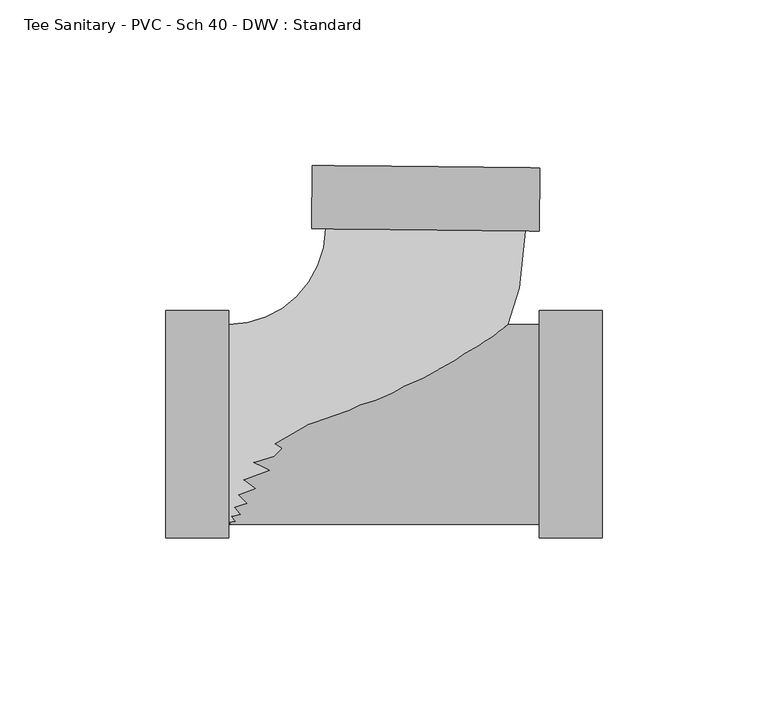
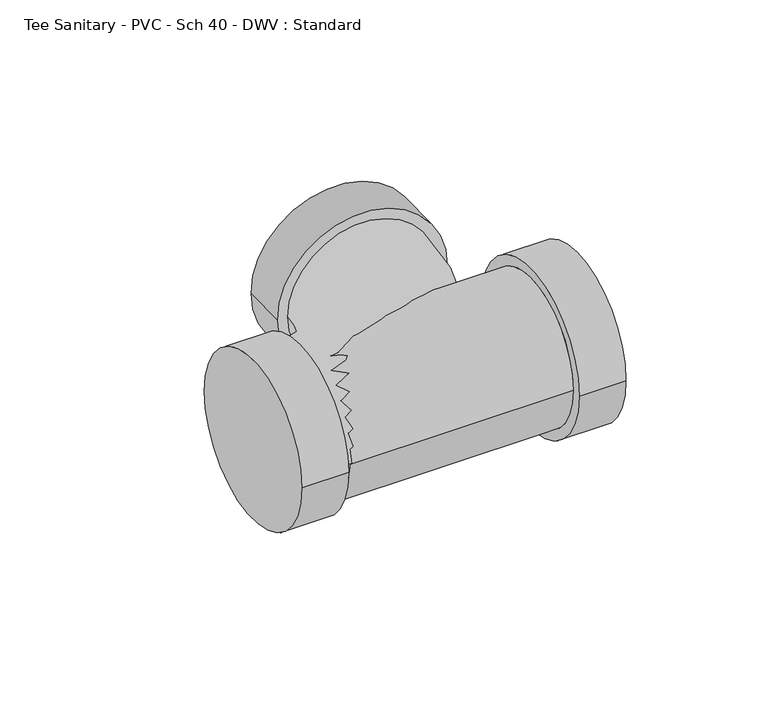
"""IFC4 building model written with IfcOpenShell, lengths in millimetres: pipe fitting geometry, Tee Sanitary - PVC - Sch 40 - DWV : Standard."""

from ifc_helpers import new_model, si_unit, point, frame, origin, place, context, project, spatial, circle_curve, ellipse_curve, trimmed, source, transform, mapped, element, save
from ifc_brep_helpers import plane_surface, cylinder_surface, revolved_surface, advanced_brep


def tee_sanitary_pvc_sch_40_dwv_standard_63ee02c0(model_context):
    return source(origin(), model_context, "Body", "AdvancedBrep", [
        advanced_brep(
        [(-58.7502, 30.1625, 0.0), (-58.7502, -30.1625, 0.0), (30.7728118, 58.4328372, 0.0), (-29.5489157, 59.0611885, 0.0), (35.1239132, 77.4385467, 0.0), (-33.5031636, 78.1534121, 0.0), (34.9254865, 58.3895802, 0.0), (-33.7015904, 59.1044455, 0.0)],
        [
            (0, 1, circle_curve(frame((-58.7502, 0.0, 0.0), z_axis=(-1.0, 0.0, 0.0), x_axis=(0.0, -1.0, 0.0)), 30.1625)),
            (1, 0, circle_curve(frame((-58.7502, 0.0, 0.0), z_axis=(-1.0, 0.0, 0.0), x_axis=(0.0, -1.0, 0.0)), 30.1625)),
            (1, 2, circle_curve(frame((-58.7502, 59.3653686, 0.0), z_axis=(0.0, 0.0, 1.0), x_axis=(0.0, -1.0, 0.0)), 89.5278686)),
            (2, 3, circle_curve(frame((0.6119481, 58.7470129, 0.0), z_axis=(-0.01041610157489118, -0.9999457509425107, 0.0), x_axis=(0.9999457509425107, -0.01041610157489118, 0.0)), 30.1625)),
            (3, 0, circle_curve(frame((-58.7502, 59.3653686, 0.0), z_axis=(0.0, 0.0, -1.0), x_axis=(0.0, -1.0, 0.0)), 29.2028686)),
            (3, 2, circle_curve(frame((0.6119481, 58.7470129, 0.0), z_axis=(-0.01041610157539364, -0.9999457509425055, 0.0), x_axis=(0.9999457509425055, -0.01041610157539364, 0.0)), 30.1625)),
            (4, 5, circle_curve(frame((0.8103748, 77.7959794, 0.0), z_axis=(0.010416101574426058, 0.9999457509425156, 0.0), x_axis=(-0.9999457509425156, 0.010416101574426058, 0.0)), 34.3154)),
            (5, 4, circle_curve(frame((0.8103748, 77.7959794, 0.0), z_axis=(0.010416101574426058, 0.9999457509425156, 0.0), x_axis=(-0.9999457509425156, 0.010416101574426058, 0.0)), 34.3154)),
            (6, 7, circle_curve(frame((0.6119481, 58.7470129, 0.0), z_axis=(-0.010416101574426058, -0.9999457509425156, 0.0), x_axis=(-0.9999457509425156, 0.010416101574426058, 0.0)), 34.3154)),
            (7, 6, circle_curve(frame((0.6119481, 58.7470129, 0.0), z_axis=(-0.010416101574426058, -0.9999457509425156, 0.0), x_axis=(-0.9999457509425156, 0.010416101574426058, 0.0)), 34.3154)),
            (5, 7),
            (6, 4),
        ],
        [
            plane_surface(frame((-58.7502, 0.0, 0.0), z_axis=(-1.0, 0.0, 0.0), x_axis=(0.0, 0.0, 1.0))),
            revolved_surface(trimmed(ellipse_curve(frame((-58.7502, 0.0, 0.0), z_axis=(1.0, 0.0, 0.0), x_axis=(0.0, -1.0, 0.0)), 30.1625, 30.1625), [point((-58.7502, 30.1625, 0.0))], [point((-58.7502, -30.1625, 0.0))], True, "CARTESIAN"), (-58.7502, 59.3653686, 0.0), (0.0, 0.0, -1.0)),
            revolved_surface(trimmed(ellipse_curve(frame((-58.7502, 0.0, 0.0), z_axis=(1.0, 0.0, 0.0), x_axis=(0.0, -1.0, 0.0)), 30.1625, 30.1625), [point((-58.7502, -30.1625, 0.0))], [point((-58.7502, 30.1625, 0.0))], True, "CARTESIAN"), (-58.7502, 59.3653686, 0.0), (0.0, 0.0, -1.0)),
            plane_surface(frame((0.8103748, 77.7959794, 0.0), z_axis=(0.010416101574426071, 0.9999457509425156, 0.0), x_axis=(0.0, 0.0, 1.0))),
            plane_surface(frame((0.6119481, 58.7470129, 0.0), z_axis=(-0.010416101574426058, -0.9999457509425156, 0.0), x_axis=(0.0, 0.0, 1.0))),
            cylinder_surface(frame((0.8103748, 77.7959794, 0.0), z_axis=(0.010416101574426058, 0.9999457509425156, 0.0), x_axis=(-0.9999457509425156, 0.010416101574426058, 0.0)), 34.3154),
        ],
        [
            (0, [[1, 2]]),
            (1, [[3, 4, 5, -2]]),
            (2, [[-5, 6, -3, -1]]),
            (3, [[7, 8]]),
            (4, [[9, 10], [-6, -4]]),
            (5, [[11, -9, 12, -8]]),
            (5, [[-12, -10, -11, -7]]),
        ],
    ),
        advanced_brep(
        [(-58.7502, 30.1625, 0.0), (-58.7502, -30.1625, 0.0), (34.9254865, -30.1625, 0.0), (34.9254865, 30.1625, 0.0), (34.9254865, 34.3154, 0.0), (34.9254865, -34.3154, 0.0), (53.9754865, 34.3154, 0.0), (53.9754865, -34.3154, 0.0), (-77.8002, 34.3154, 0.0), (-77.8002, -34.3154, 0.0), (-58.7502, 34.3154, 0.0), (-58.7502, -34.3154, 0.0)],
        [
            (0, 1, circle_curve(frame((-58.7502, 0.0, 0.0), z_axis=(1.0, 0.0, 0.0), x_axis=(0.0, -1.0, 0.0)), 30.1625)),
            (1, 2),
            (2, 3, circle_curve(frame((34.9254865, 0.0, 0.0), z_axis=(-1.0, 0.0, 0.0), x_axis=(0.0, -1.0, 0.0)), 30.1625)),
            (3, 0),
            (3, 2, circle_curve(frame((34.9254865, 0.0, 0.0), z_axis=(-1.0, 0.0, 0.0), x_axis=(0.0, -1.0, 0.0)), 30.1625)),
            (1, 0, circle_curve(frame((-58.7502, 0.0, 0.0), z_axis=(1.0, 0.0, 0.0), x_axis=(0.0, -1.0, 0.0)), 30.1625)),
            (4, 5, circle_curve(frame((34.9254865, 0.0, 0.0), z_axis=(-1.0, 0.0, 0.0), x_axis=(0.0, -1.0, 0.0)), 34.3154)),
            (5, 4, circle_curve(frame((34.9254865, 0.0, 0.0), z_axis=(-1.0, 0.0, 0.0), x_axis=(0.0, -1.0, 0.0)), 34.3154)),
            (6, 7, circle_curve(frame((53.9754865, 0.0, 0.0), z_axis=(1.0, 0.0, 0.0), x_axis=(0.0, -1.0, 0.0)), 34.3154)),
            (7, 6, circle_curve(frame((53.9754865, 0.0, 0.0), z_axis=(1.0, 0.0, 0.0), x_axis=(0.0, -1.0, 0.0)), 34.3154)),
            (5, 7),
            (6, 4),
            (8, 9, circle_curve(frame((-77.8002, 0.0, 0.0), z_axis=(-1.0, 0.0, 0.0), x_axis=(0.0, -1.0, 0.0)), 34.3154)),
            (9, 8, circle_curve(frame((-77.8002, 0.0, 0.0), z_axis=(-1.0, 0.0, 0.0), x_axis=(0.0, -1.0, 0.0)), 34.3154)),
            (10, 11, circle_curve(frame((-58.7502, 0.0, 0.0), z_axis=(1.0, 0.0, 0.0), x_axis=(0.0, -1.0, 0.0)), 34.3154)),
            (11, 10, circle_curve(frame((-58.7502, 0.0, 0.0), z_axis=(1.0, 0.0, 0.0), x_axis=(0.0, -1.0, 0.0)), 34.3154)),
            (9, 11),
            (10, 8),
        ],
        [
            cylinder_surface(frame((-58.7502, 0.0, 0.0), z_axis=(-1.0, 0.0, 0.0), x_axis=(0.0, -1.0, 0.0)), 30.1625),
            plane_surface(frame((34.9254865, 0.0, 0.0), z_axis=(-1.0, 0.0, 0.0), x_axis=(0.0, 0.0, 1.0))),
            plane_surface(frame((53.9754865, 0.0, 0.0), z_axis=(1.0, 0.0, 0.0), x_axis=(0.0, 0.0, 1.0))),
            cylinder_surface(frame((34.9254865, 0.0, 0.0), z_axis=(-1.0, 0.0, 0.0), x_axis=(0.0, -1.0, 0.0)), 34.3154),
            plane_surface(frame((-77.8002, 0.0, 0.0), z_axis=(-1.0, 0.0, 0.0), x_axis=(0.0, 0.0, 1.0))),
            plane_surface(frame((-58.7502, 0.0, 0.0), z_axis=(1.0, 0.0, 0.0), x_axis=(0.0, 0.0, 1.0))),
            cylinder_surface(frame((-77.8002, 0.0, 0.0), z_axis=(-1.0, 0.0, 0.0), x_axis=(0.0, -1.0, 0.0)), 34.3154),
        ],
        [
            (0, [[1, 2, 3, 4]]),
            (0, [[5, -2, 6, -4]]),
            (1, [[7, 8], [-5, -3]]),
            (2, [[9, 10]]),
            (3, [[11, -9, 12, -8]]),
            (3, [[-12, -10, -11, -7]]),
            (4, [[13, 14]]),
            (5, [[15, 16], [-6, -1]]),
            (6, [[17, -15, 18, -14]]),
            (6, [[-18, -16, -17, -13]]),
        ],
    ),
    ])


if __name__ == "__main__":
    model = new_model("IFC4")
    model_context = context("Model", 3, world=origin())
    ifc_project = project(units=[si_unit("LENGTHUNIT", "METRE", prefix="MILLI")], contexts=[model_context])
    site = spatial("IfcSite", under=ifc_project)
    building = spatial("IfcBuilding", under=site)
    placement = place(None, origin())
    tee_sanitary_pvc_sch_40_dwv_standard_shape = tee_sanitary_pvc_sch_40_dwv_standard_63ee02c0(model_context)
    element("IfcPipeFitting", 1, ObjectType="Tee Sanitary - PVC - Sch 40 - DWV : Standard", at=placement, inside=building, context=model_context, shape_type="MappedRepresentation", body=[
        mapped(tee_sanitary_pvc_sch_40_dwv_standard_shape, transform((0.0, 0.0, 0.0), x_axis=(1.0, 0.0, 0.0), y_axis=(0.0, 1.0, 0.0), z_axis=(0.0, 0.0, 1.0))),
    ])
    save(model, "model.ifc")
